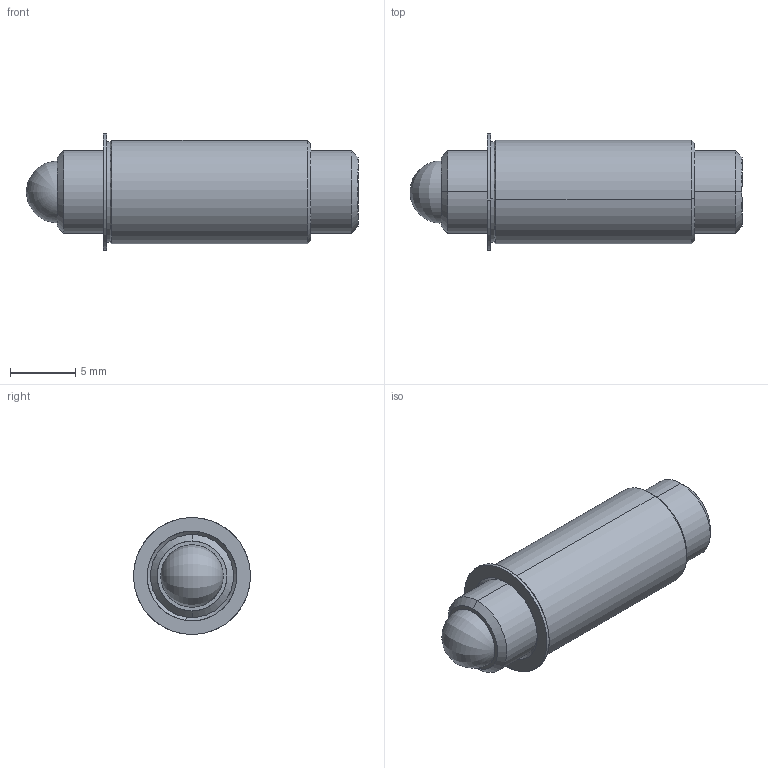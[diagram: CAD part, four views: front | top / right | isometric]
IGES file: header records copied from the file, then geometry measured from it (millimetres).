
Start section: SolidWorks IGES file using analytic representation for surfaces
Global section: file name: C:\Users\workpc\Desktop\KMA Solidworks\TSB250-80-1000_625-AA.IGS; native system: SolidWorks 2013; preprocessor: SolidWorks 2013; author: workpc; date: 130314.084249; units: inch
Bounding box: 25.4 x 8.94 x 8.94 mm (x, y, z)
Surface area: 1039.4 mm2 (no closed solid volume)
Topology: 0 solids, 0 shells, 33 faces, 406 edges, 402 vertices
Faces by surface type: revolution 22, bspline 11
